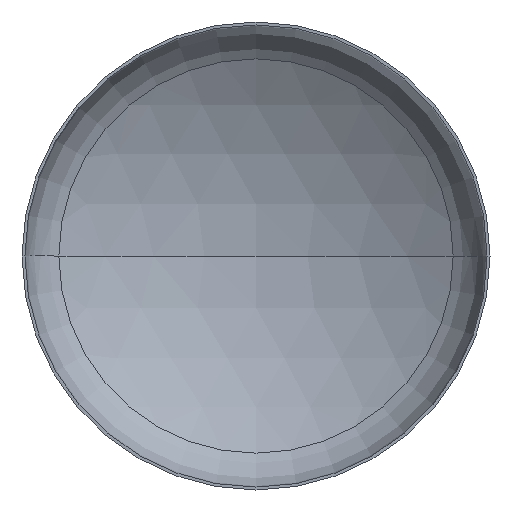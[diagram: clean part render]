
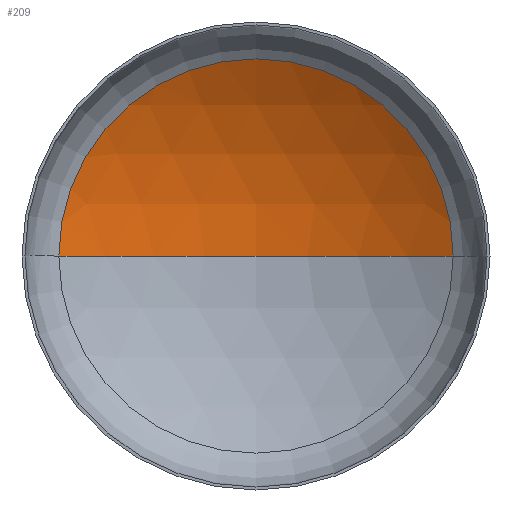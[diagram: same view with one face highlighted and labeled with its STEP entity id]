
A CAD part, front view. The second image highlights one B-rep face of the part: STEP entity #209.
In plain terms, the highlighted spherical face has radius 2560 mm.
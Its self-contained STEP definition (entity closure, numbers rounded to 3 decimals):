
#6 = CARTESIAN_POINT ( 'NONE',  ( 0., 860.227, 0. ) ) ;
#21 = EDGE_LOOP ( 'NONE', ( #132, #82, #117 ) ) ;
#50 = VERTEX_POINT ( 'NONE', #263 ) ;
#65 = AXIS2_PLACEMENT_3D ( 'NONE', #220, #216, #278 ) ;
#82 = ORIENTED_EDGE ( 'NONE', *, *, #167, .T. ) ;
#84 = AXIS2_PLACEMENT_3D ( 'NONE', #239, #232, #237 ) ;
#88 = AXIS2_PLACEMENT_3D ( 'NONE', #123, #119, #272 ) ;
#89 = AXIS2_PLACEMENT_3D ( 'NONE', #127, #135, #191 ) ;
#100 = VERTEX_POINT ( 'NONE', #266 ) ;
#117 = ORIENTED_EDGE ( 'NONE', *, *, #162, .T. ) ;
#119 = DIRECTION ( 'NONE',  ( 0., 0., -1. ) ) ;
#123 = CARTESIAN_POINT ( 'NONE',  ( 0., -1699.773, 0. ) ) ;
#127 = CARTESIAN_POINT ( 'NONE',  ( 0., 476.565, 0. ) ) ;
#132 = ORIENTED_EDGE ( 'NONE', *, *, #181, .F. ) ;
#135 = DIRECTION ( 'NONE',  ( 0., -1., 0. ) ) ;
#162 = EDGE_CURVE ( 'NONE', #50, #100, #359, .T. ) ;
#167 = EDGE_CURVE ( 'NONE', #279, #50, #244, .T. ) ;
#181 = EDGE_CURVE ( 'NONE', #279, #100, #353, .T. ) ;
#191 = DIRECTION ( 'NONE',  ( 1., 0., 0. ) ) ;
#209 = ADVANCED_FACE ( 'NONE', ( #401 ), #240, .F. ) ;
#216 = DIRECTION ( 'NONE',  ( 0., 0., -1. ) ) ;
#220 = CARTESIAN_POINT ( 'NONE',  ( 0., -1699.773, 0. ) ) ;
#232 = DIRECTION ( 'NONE',  ( 0., 0., 1. ) ) ;
#237 = DIRECTION ( 'NONE',  ( 1., 0., 0. ) ) ;
#239 = CARTESIAN_POINT ( 'NONE',  ( 0., -1699.773, 0. ) ) ;
#240 = SPHERICAL_SURFACE ( 'NONE', #65, 2560. ) ;
#244 = CIRCLE ( 'NONE', #88, 2560. ) ;
#263 = CARTESIAN_POINT ( 'NONE',  ( 1348.019, 476.565, 0. ) ) ;
#266 = CARTESIAN_POINT ( 'NONE',  ( -1348.019, 476.565, 0. ) ) ;
#272 = DIRECTION ( 'NONE',  ( -1., 0., 0. ) ) ;
#278 = DIRECTION ( 'NONE',  ( -1., 0., 0. ) ) ;
#279 = VERTEX_POINT ( 'NONE', #6 ) ;
#353 = CIRCLE ( 'NONE', #84, 2560. ) ;
#359 = CIRCLE ( 'NONE', #89, 1348.019 ) ;
#401 = FACE_OUTER_BOUND ( 'NONE', #21, .T. ) ;
